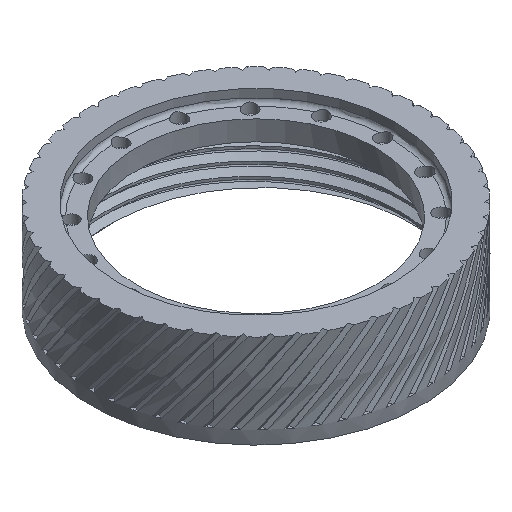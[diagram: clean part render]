
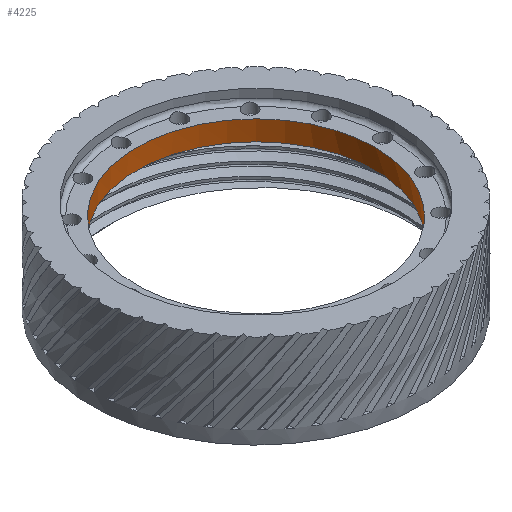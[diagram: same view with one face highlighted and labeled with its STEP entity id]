
A CAD part, isometric view. The second image highlights one B-rep face of the part: STEP entity #4225.
In plain terms, the highlighted cylindrical face has radius 27 mm (diameter 54 mm), a full revolution.
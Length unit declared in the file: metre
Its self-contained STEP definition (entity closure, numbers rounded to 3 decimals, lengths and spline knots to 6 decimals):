
#421=CYLINDRICAL_SURFACE('',#4644,0.027);
#1360=ORIENTED_EDGE('',*,*,#2365,.T.);
#1361=ORIENTED_EDGE('',*,*,#2382,.F.);
#2365=EDGE_CURVE('',#3078,#3078,#3504,.T.);
#2382=EDGE_CURVE('',#3079,#3079,#3521,.T.);
#3078=VERTEX_POINT('',#5754);
#3079=VERTEX_POINT('',#5773);
#3504=CIRCLE('',#4510,0.027);
#3521=CIRCLE('',#4528,0.027);
#3664=EDGE_LOOP('',(#1360));
#3665=EDGE_LOOP('',(#1361));
#3948=FACE_BOUND('',#3664,.T.);
#3949=FACE_BOUND('',#3665,.T.);
#4225=ADVANCED_FACE('',(#3948,#3949),#421,.F.);
#4510=AXIS2_PLACEMENT_3D('',#5753,#4803,#4804);
#4528=AXIS2_PLACEMENT_3D('',#5772,#4839,#4840);
#4644=AXIS2_PLACEMENT_3D('',#8479,#5071,#5072);
#4803=DIRECTION('',(0.,0.,-1.));
#4804=DIRECTION('',(0.819,0.574,0.));
#4839=DIRECTION('',(0.,0.,-1.));
#4840=DIRECTION('',(1.,0.,0.));
#5071=DIRECTION('',(0.,0.,-1.));
#5072=DIRECTION('',(0.819,0.574,0.));
#5753=CARTESIAN_POINT('',(0.,0.,0.067303));
#5754=CARTESIAN_POINT('',(0.022117,0.015487,0.067303));
#5772=CARTESIAN_POINT('',(0.,0.,0.0718));
#5773=CARTESIAN_POINT('',(0.027,0.,0.0718));
#8479=CARTESIAN_POINT('',(0.,0.,0.0678));
